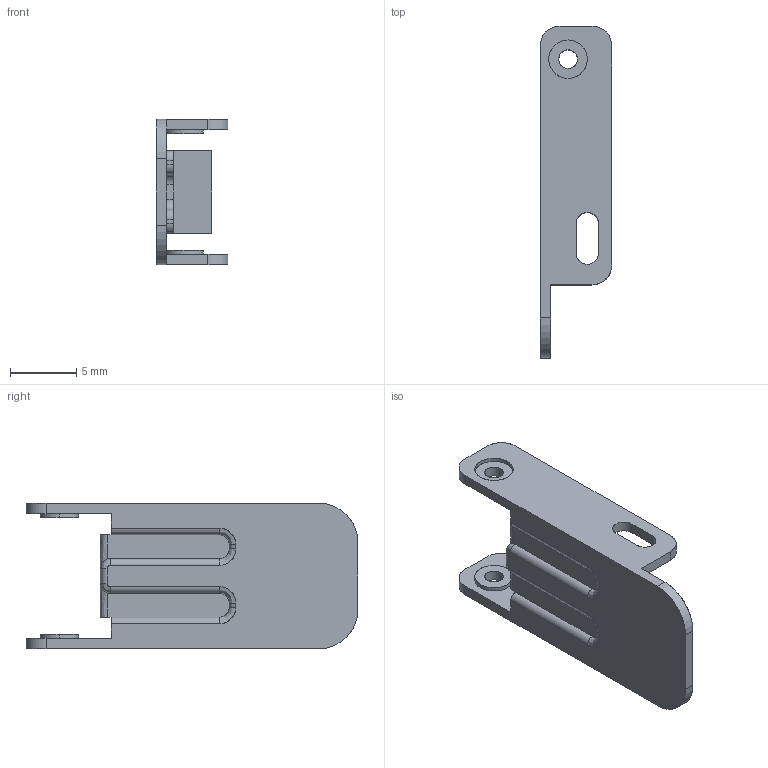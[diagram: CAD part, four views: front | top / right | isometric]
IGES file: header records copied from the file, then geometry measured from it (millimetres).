
Start section: SolidWorks IGES FILE using analytic representation for surfaces
Global section: file name: C:\Documents and Settings\lecoutey\Bureau\GP 69\69.010.00.IGS; native system: SolidWorks 2004 by SolidWorks Corporation; preprocessor: Version 5.3; author: lecoutey; date: 050329.145919; units: millimetre
Bounding box: 5.4 x 25 x 11 mm (x, y, z)
Surface area: 938.1 mm2 (no closed solid volume)
Topology: 0 solids, 0 shells, 80 faces, 1014 edges, 1014 vertices
Faces by surface type: bspline 42, revolution 38
